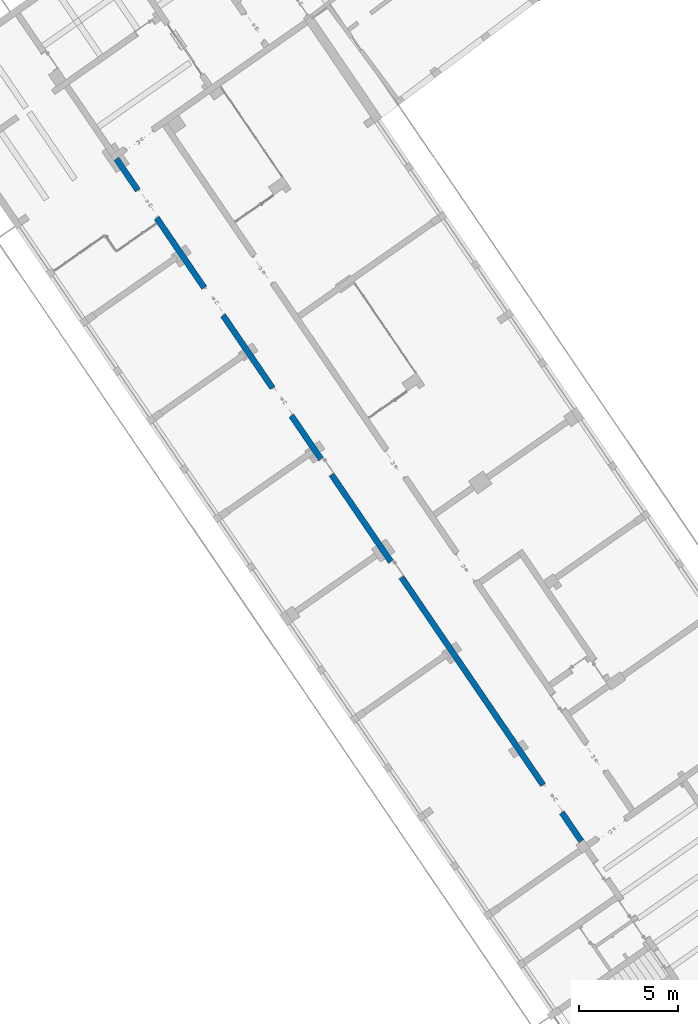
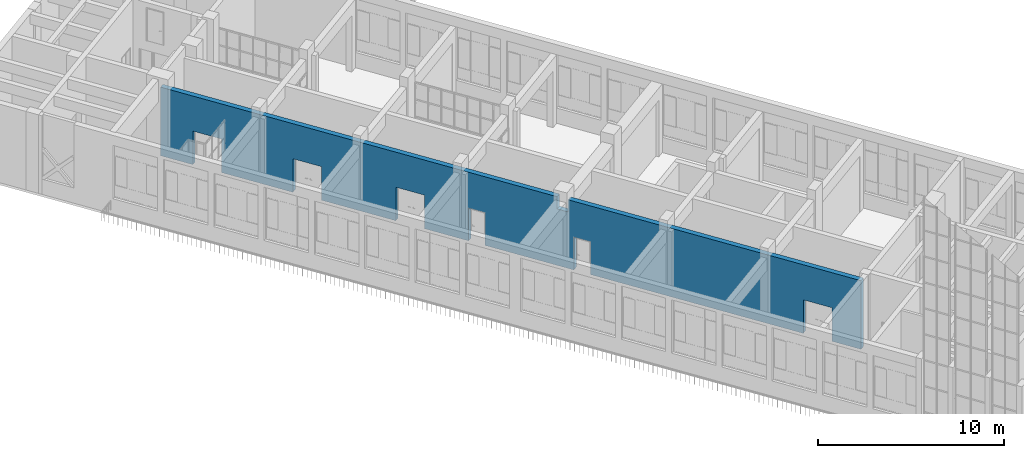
# One storey, part 124 of 157: 1 wall, 6 openings.
"""IFC2X3 building model written with IfcOpenShell, lengths in millimetres."""

from ifc_helpers import new_model, entity, si_unit, converted_unit, derived_unit, direction, frame, frame_2d, origin, place, context, subcontext, project, spatial, rectangle, extrude, faceted_brep, material, layer, layer_set, type_object, element, save


model = new_model("IFC2X3")

# Units and contexts
model_context = context("Model", 3, precision=0.01, world=origin(), true_north=direction((6.123031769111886e-17, 1.0)))
body_context = subcontext(model_context, "Body", "Model", "MODEL_VIEW")
ifc_project = project(units=[si_unit("LENGTHUNIT", "METRE", prefix="MILLI"), si_unit("AREAUNIT", "SQUARE_METRE"), si_unit("VOLUMEUNIT", "CUBIC_METRE"), converted_unit("PLANEANGLEUNIT", "DEGREE", entity("IfcRatioMeasure", 0.017453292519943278), si_unit("PLANEANGLEUNIT", "RADIAN"), dimensions=[0, 0, 0, 0, 0, 0, 0]), si_unit("MASSUNIT", "GRAM", prefix="KILO"), derived_unit("MASSDENSITYUNIT", [(si_unit("MASSUNIT", "GRAM", prefix="KILO"), 1), (si_unit("LENGTHUNIT", "METRE"), -3)]), derived_unit("MOMENTOFINERTIAUNIT", [(si_unit("LENGTHUNIT", "METRE"), 4)]), si_unit("TIMEUNIT", "SECOND"), si_unit("FREQUENCYUNIT", "HERTZ"), si_unit("THERMODYNAMICTEMPERATUREUNIT", "DEGREE_CELSIUS"), derived_unit("THERMALTRANSMITTANCEUNIT", [(si_unit("MASSUNIT", "GRAM", prefix="KILO"), 1), (si_unit("THERMODYNAMICTEMPERATUREUNIT", "KELVIN"), -1), (si_unit("TIMEUNIT", "SECOND"), -3)]), derived_unit("THERMALCONDUCTANCEUNIT", [(si_unit("MASSUNIT", "GRAM", prefix="KILO"), 1), (si_unit("LENGTHUNIT", "METRE"), 1), (si_unit("THERMODYNAMICTEMPERATUREUNIT", "KELVIN"), -1), (si_unit("TIMEUNIT", "SECOND"), -3)]), derived_unit("VOLUMETRICFLOWRATEUNIT", [(si_unit("LENGTHUNIT", "METRE"), 3), (si_unit("TIMEUNIT", "SECOND"), -1)]), derived_unit("MASSFLOWRATEUNIT", [(si_unit("MASSUNIT", "GRAM", prefix="KILO"), 1), (si_unit("TIMEUNIT", "SECOND"), -1)]), derived_unit("ROTATIONALFREQUENCYUNIT", [(si_unit("TIMEUNIT", "SECOND"), -1)]), si_unit("ELECTRICCURRENTUNIT", "AMPERE"), si_unit("ELECTRICVOLTAGEUNIT", "VOLT"), si_unit("POWERUNIT", "WATT"), converted_unit("FORCEUNIT", "KIP", entity("IfcRatioMeasure", 2.088543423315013e-05), si_unit("FORCEUNIT", "NEWTON"), dimensions=[1, 1, -2, 0, 0, 0, 0]), si_unit("ILLUMINANCEUNIT", "LUX"), si_unit("LUMINOUSFLUXUNIT", "LUMEN"), si_unit("LUMINOUSINTENSITYUNIT", "CANDELA"), derived_unit("USERDEFINED", [(si_unit("MASSUNIT", "GRAM", prefix="KILO"), -1), (si_unit("LENGTHUNIT", "METRE"), -2), (si_unit("TIMEUNIT", "SECOND"), 3), (si_unit("LUMINOUSFLUXUNIT", "LUMEN"), 1)]), derived_unit("USERDEFINED", [(si_unit("MASSUNIT", "GRAM", prefix="KILO"), 1), (si_unit("LENGTHUNIT", "METRE"), 3), (si_unit("TIMEUNIT", "SECOND"), -3), (si_unit("ELECTRICCURRENTUNIT", "AMPERE"), -2)]), derived_unit("USERDEFINED", [(si_unit("LENGTHUNIT", "METRE"), 2), (si_unit("TIMEUNIT", "SECOND"), -2)]), derived_unit("SOUNDPOWERUNIT", [(si_unit("MASSUNIT", "GRAM", prefix="KILO"), 1), (si_unit("LENGTHUNIT", "METRE"), 2), (si_unit("TIMEUNIT", "SECOND"), -3)]), derived_unit("SOUNDPRESSUREUNIT", [(si_unit("MASSUNIT", "GRAM", prefix="KILO"), 1), (si_unit("LENGTHUNIT", "METRE"), -1), (si_unit("TIMEUNIT", "SECOND"), -2)]), derived_unit("LINEARVELOCITYUNIT", [(si_unit("LENGTHUNIT", "METRE"), 1), (si_unit("TIMEUNIT", "SECOND"), -1)]), si_unit("PRESSUREUNIT", "PASCAL"), derived_unit("USERDEFINED", [(si_unit("LENGTHUNIT", "METRE"), -2), (si_unit("MASSUNIT", "GRAM", prefix="KILO"), 1), (si_unit("TIMEUNIT", "SECOND"), -2)]), derived_unit("LINEARFORCEUNIT", [(si_unit("MASSUNIT", "GRAM", prefix="KILO"), 1), (si_unit("LENGTHUNIT", "METRE"), 1), (si_unit("TIMEUNIT", "SECOND"), -2), (si_unit("LENGTHUNIT", "METRE"), -1)]), derived_unit("PLANARFORCEUNIT", [(si_unit("MASSUNIT", "GRAM", prefix="KILO"), 1), (si_unit("LENGTHUNIT", "METRE"), 1), (si_unit("TIMEUNIT", "SECOND"), -2), (si_unit("LENGTHUNIT", "METRE"), -2)]), derived_unit("SPECIFICHEATCAPACITYUNIT", [(si_unit("LENGTHUNIT", "METRE"), 2), (si_unit("TIMEUNIT", "SECOND"), -2), (si_unit("THERMODYNAMICTEMPERATUREUNIT", "KELVIN"), -1)]), derived_unit("VAPORPERMEABILITYUNIT", [(si_unit("TIMEUNIT", "SECOND"), 1), (si_unit("LENGTHUNIT", "METRE"), -1)]), derived_unit("DYNAMICVISCOSITYUNIT", [(si_unit("MASSUNIT", "GRAM", prefix="KILO"), 1), (si_unit("LENGTHUNIT", "METRE"), -1), (si_unit("TIMEUNIT", "SECOND"), -1)]), derived_unit("THERMALEXPANSIONCOEFFICIENTUNIT", [(si_unit("THERMODYNAMICTEMPERATUREUNIT", "KELVIN"), -1)])], contexts=[model_context])

# Site, building, storey
site_placement = place(None, frame((0.0, 0.0, 0.0), z_axis=(0.0, 0.0, 1.0), x_axis=(0.8191520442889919, 0.5735764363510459, 0.0)))
site = spatial("IfcSite", under=ifc_project, at=site_placement, Name="Default", CompositionType="ELEMENT")
building_placement = place(site_placement, origin())
building = spatial("IfcBuilding", under=site, at=building_placement, CompositionType="ELEMENT")
storey_placement = place(building_placement, origin())
storey = spatial("IfcBuildingStorey", under=building, at=storey_placement, Name="1.EG +0.00", CompositionType="ELEMENT", Elevation=-4.331468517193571e-12)

# Wall, openings
ifc_material = material(Name="Analytical Wall Surface_CJC")
ifc_layer = layer(ifc_material, 300.0)
ifc_layer_set = layer_set([ifc_layer], Name="Basic Wall:Wand_Innen_30")
wall_type = type_object("IfcWallType", Name="Basic Wall:Wand_Innen_30", PredefinedType="STANDARD", material=ifc_layer_set)
wall_placement = place(storey_placement, frame((-216841.67809097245, 122049.44947620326, 0.0), z_axis=(0.0, 0.0, 1.0), x_axis=(0.012729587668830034, 0.9999189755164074, 0.0)))
wall = element("IfcWall", 1, at=wall_placement, inside=storey, type_object=wall_type, Name="Basic Wall:Wand_Innen_30", ObjectType="Basic Wall:Wand_Innen_30", context=body_context, shape_type="Brep", body=[
    faceted_brep([(41777.203852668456, -150.0, 0.0), (41777.203852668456, -150.0, 4500.0), (41195.12006841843, -150.0, 4500.0), (36201.75210456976, -150.0, 4500.0), (36126.746027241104, -150.0, 4500.0), (35776.71766637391, -150.0, 4500.0), (35701.711589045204, -150.0, 4500.0), (30201.265918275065, -150.0, 4500.0), (30126.25984094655, -150.0, 4500.0), (29776.231480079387, -150.0, 4500.0), (29701.225402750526, -150.0, 4500.0), (24200.779731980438, -150.0, 4500.0), (24125.773654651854, -150.0, 4500.0), (23775.745293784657, -150.0, 4500.0), (23700.7392164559, -150.0, 4500.0), (18200.29354568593, -150.0, 4500.0), (18125.28746835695, -150.0, 4500.0), (18125.287468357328, -150.0, 3700.0), (17475.23479817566, -150.0, 3700.0), (17475.234798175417, -150.0, 4500.0), (17400.228720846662, -150.0, 4500.0), (11899.783050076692, -150.0, 4500.0), (11824.776972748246, -150.0, 4500.0), (11474.74861188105, -150.0, 4500.0), (11399.742534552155, -150.0, 4500.0), (5899.783050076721, -150.0, 4500.0), (5824.290786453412, -150.0, 4500.0), (5474.262425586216, -150.0, 4500.0), (5399.742534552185, -150.0, 4500.0), (3.8191857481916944, -150.0, 4500.0), (3.8191857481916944, -150.0, 0.0), (1747.1924363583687, -150.0, 0.0), (1747.1924363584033, -150.0, 2200.0), (3447.1924363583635, -150.0, 2200.0), (3447.1924363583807, -150.0, 0.0), (5399.742534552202, -150.0, 0.0), (5899.783050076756, -150.0, 0.0), (11399.742534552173, -150.0, 0.0), (11899.783050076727, -150.0, 0.0), (16147.192436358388, -150.0, 0.0), (16147.192436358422, -150.0, 2150.0), (17127.192436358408, -150.0, 2150.0), (17127.192436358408, -150.0, 0.0), (17400.228720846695, -150.0, 0.0), (18200.293545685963, -150.0, 0.0), (22427.19243635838, -150.0, 0.0), (22427.192436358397, -150.0, 2150.0), (23407.1924363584, -150.0, 2150.0), (23407.1924363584, -150.0, 0.0), (23700.739216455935, -150.0, 0.0), (24200.77973198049, -150.0, 0.0), (26046.24243635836, -150.0, 0.0), (26046.24243635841, -150.0, 2200.0), (27746.24243635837, -150.0, 2200.0), (27746.24243635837, -150.0, 0.0), (29701.225402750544, -150.0, 0.0), (30201.265918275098, -150.0, 0.0), (32185.292436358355, -150.0, 0.0), (32185.292436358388, -150.0, 2200.0), (33885.29243635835, -150.0, 2200.0), (33885.292436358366, -150.0, 0.0), (35701.71158904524, -150.0, 0.0), (36201.75210456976, -150.0, 0.0), (38154.34243635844, -150.0, 0.0), (38154.34243635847, -150.0, 2200.0), (39854.34243635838, -150.0, 2200.0), (39854.34243635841, -150.0, 0.0), (41195.1200684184, -150.0, 0.0), (41773.38466692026, 150.0, 4500.0), (41773.38466692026, 150.0, 3700.0), (41773.38466692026, 150.0, 0.0), (41195.12006841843, 150.0, 0.0), (39854.3424363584, 150.0, 0.0), (39854.342436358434, 150.0, 2200.0), (38154.342436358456, 150.0, 2200.0), (38154.342436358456, 150.0, 0.0), (36197.93291882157, 150.0, 0.0), (35697.892403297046, 150.0, 0.0), (33885.292436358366, 150.0, 0.0), (33885.29243635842, 150.0, 2200.0), (32185.29243635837, 150.0, 2200.0), (32185.292436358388, 150.0, 0.0), (30197.44673252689, 150.0, 0.0), (29697.406217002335, 150.0, 0.0), (27746.24243635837, 150.0, 0.0), (27746.242436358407, 150.0, 2200.0), (26046.242436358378, 150.0, 2200.0), (26046.242436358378, 150.0, 0.0), (24196.96054623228, 150.0, 0.0), (24095.00769794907, 150.0, 0.0), (23794.983388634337, 150.0, 0.0), (23696.920030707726, 150.0, 0.0), (23407.192436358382, 150.0, 0.0), (23407.1924363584, 150.0, 2150.0), (22427.19243635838, 150.0, 2150.0), (22427.192436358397, 150.0, 0.0), (18196.474359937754, 150.0, 0.0), (17396.409535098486, 150.0, 0.0), (17127.19243635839, 150.0, 0.0), (17127.192436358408, 150.0, 2150.0), (16147.192436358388, 150.0, 2150.0), (16147.192436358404, 150.0, 0.0), (11895.963864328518, 150.0, 0.0), (11395.923348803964, 150.0, 0.0), (5895.963864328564, 150.0, 0.0), (5395.923348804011, 150.0, 0.0), (3447.192436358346, 150.0, 0.0), (3447.1924363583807, 150.0, 2200.0), (1747.1924363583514, 150.0, 2200.0), (1747.1924363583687, 150.0, 0.0), (0.0, 150.0, 0.0), (0.0, 150.0, 4500.0), (5395.923348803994, 150.0, 4500.0), (5470.436688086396, 150.0, 4500.0), (5820.4650489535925, 150.0, 4500.0), (5895.96386432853, 150.0, 4500.0), (11395.923348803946, 150.0, 4500.0), (11468.984680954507, 150.0, 4500.0), (11819.013041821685, 150.0, 4500.0), (11895.963864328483, 150.0, 4500.0), (17396.409535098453, 150.0, 4500.0), (17471.415612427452, 150.0, 4500.0), (17471.415612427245, 150.0, 3700.0), (18121.468282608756, 150.0, 3700.0), (18121.468282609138, 150.0, 4500.0), (18196.47435993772, 150.0, 4500.0), (23696.92003070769, 150.0, 4500.0), (24196.96054623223, 150.0, 4500.0), (29697.406217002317, 150.0, 4500.0), (30197.446732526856, 150.0, 4500.0), (35697.89240329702, 150.0, 4500.0), (36197.93291882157, 150.0, 4500.0), (41195.12006841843, 150.0, 4500.0), (41775.31856812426, -1.909438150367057, 4500.0)], [[[0, 1, 2, 3, 4, 5, 6, 7, 8, 9, 10, 11, 12, 13, 14, 15, 16, 17, 18, 19, 20, 21, 22, 23, 24, 25, 26, 27, 28, 29, 30, 31, 32, 33, 34, 35, 36, 37, 38, 39, 40, 41, 42, 43, 44, 45, 46, 47, 48, 49, 50, 51, 52, 53, 54, 55, 56, 57, 58, 59, 60, 61, 62, 63, 64, 65, 66, 67]], [[68, 69, 70, 71, 72, 73, 74, 75, 76, 77, 78, 79, 80, 81, 82, 83, 84, 85, 86, 87, 88, 89, 90, 91, 92, 93, 94, 95, 96, 97, 98, 99, 100, 101, 102, 103, 104, 105, 106, 107, 108, 109, 110, 111, 112, 113, 114, 115, 116, 117, 118, 119, 120, 121, 122, 123, 124, 125, 126, 127, 128, 129, 130, 131, 132]], [[30, 110, 109, 31]], [[1, 133, 68, 132, 131, 130, 129, 128, 127, 126, 125, 124, 16, 15, 14, 13, 12, 11, 10, 9, 8, 7, 6, 5, 4, 3, 2]], [[18, 122, 121, 19]], [[123, 17, 16, 124]], [[122, 18, 17, 123]], [[0, 70, 69, 68, 133, 1]], [[30, 29, 111, 110]], [[100, 40, 39, 101]], [[40, 100, 99, 41]], [[41, 99, 98, 42]], [[94, 46, 45, 95]], [[46, 94, 93, 47]], [[47, 93, 92, 48]], [[108, 32, 31, 109]], [[32, 108, 107, 33]], [[33, 107, 106, 34]], [[86, 52, 51, 87]], [[52, 86, 85, 53]], [[53, 85, 84, 54]], [[80, 58, 57, 81]], [[58, 80, 79, 59]], [[59, 79, 78, 60]], [[74, 64, 63, 75]], [[64, 74, 73, 65]], [[65, 73, 72, 66]], [[111, 29, 28, 27, 26, 25, 24, 23, 22, 21, 20, 19, 121, 120, 119, 118, 117, 116, 115, 114, 113, 112]], [[42, 98, 97, 96, 95, 45, 44, 43]], [[48, 92, 91, 90, 89, 88, 87, 51, 50, 49]], [[54, 84, 83, 82, 81, 57, 56, 55]], [[60, 78, 77, 76, 75, 63, 62, 61]], [[70, 0, 67, 66, 72, 71]], [[101, 39, 38, 37, 36, 35, 34, 106, 105, 104, 103, 102]]]),
])
opening_1_placement = place(wall_placement, frame((17127.19243635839, 150.0, 0.0)))
element("IfcOpeningElement", 2, at=opening_1_placement, cuts=wall, Name="Doors_IntSgl:90x210:1", ObjectType="Opening", context=body_context, shape_type="SweptSolid", body=[
    extrude(rectangle(XDim=2150.000000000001, YDim=979.9999999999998, at=frame_2d((1075.0000000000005, 489.9999999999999), x_axis=(1.0, 0.0))), frame((0.0, 0.0, 0.0), z_axis=(0.0, -1.0, 0.0), x_axis=(0.0, 0.0, 1.0)), (0.0, 0.0, 1.0), 299.9999999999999),
])
opening_2_placement = place(wall_placement, frame((23407.192436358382, 150.0, 0.0)))
element("IfcOpeningElement", 3, at=opening_2_placement, cuts=wall, Name="Doors_IntSgl:90x210:1", ObjectType="Opening", context=body_context, shape_type="SweptSolid", body=[
    extrude(rectangle(XDim=2150.000000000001, YDim=979.9999999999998, at=frame_2d((1075.0000000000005, 489.9999999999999), x_axis=(1.0, 0.0))), frame((0.0, 0.0, 0.0), z_axis=(0.0, -1.0, 0.0), x_axis=(0.0, 0.0, 1.0)), (0.0, 0.0, 1.0), 299.9999999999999),
])
opening_3_placement = place(wall_placement, frame((3447.1924363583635, 150.0, 0.0)))
element("IfcOpeningElement", 4, at=opening_3_placement, cuts=wall, Name="M_Door-Passage-Double-Flush:160x210:1", ObjectType="Opening", context=body_context, shape_type="SweptSolid", body=[
    extrude(rectangle(XDim=2200.0, YDim=1699.9999999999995, at=frame_2d((1100.0, 849.9999999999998), x_axis=(1.0, 0.0))), frame((0.0, 0.0, 0.0), z_axis=(0.0, -1.0, 0.0), x_axis=(0.0, 0.0, 1.0)), (0.0, 0.0, 1.0), 299.9999999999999),
])
opening_4_placement = place(wall_placement, frame((27746.24243635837, 150.0, 0.0)))
element("IfcOpeningElement", 5, at=opening_4_placement, cuts=wall, Name="M_Door-Passage-Double-Flush:160x210:1", ObjectType="Opening", context=body_context, shape_type="SweptSolid", body=[
    extrude(rectangle(XDim=2200.0, YDim=1699.9999999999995, at=frame_2d((1100.0, 849.9999999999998), x_axis=(1.0, 0.0))), frame((0.0, 0.0, 0.0), z_axis=(0.0, -1.0, 0.0), x_axis=(0.0, 0.0, 1.0)), (0.0, 0.0, 1.0), 299.9999999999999),
])
opening_5_placement = place(wall_placement, frame((33885.29243635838, 150.0, 0.0)))
element("IfcOpeningElement", 6, at=opening_5_placement, cuts=wall, Name="M_Door-Passage-Double-Flush:160x210:1", ObjectType="Opening", context=body_context, shape_type="SweptSolid", body=[
    extrude(rectangle(XDim=2200.0, YDim=1699.9999999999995, at=frame_2d((1100.0, 849.9999999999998), x_axis=(1.0, 0.0))), frame((0.0, 0.0, 0.0), z_axis=(0.0, -1.0, 0.0), x_axis=(0.0, 0.0, 1.0)), (0.0, 0.0, 1.0), 299.9999999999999),
])
opening_6_placement = place(wall_placement, frame((39854.342436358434, 150.0, 0.0)))
element("IfcOpeningElement", 7, at=opening_6_placement, cuts=wall, Name="M_Door-Passage-Double-Flush:160x210:1", ObjectType="Opening", context=body_context, shape_type="SweptSolid", body=[
    extrude(rectangle(XDim=2200.0, YDim=1699.9999999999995, at=frame_2d((1100.0, 849.9999999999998), x_axis=(1.0, 0.0))), frame((0.0, 0.0, 0.0), z_axis=(0.0, -1.0, 0.0), x_axis=(0.0, 0.0, 1.0)), (0.0, 0.0, 1.0), 299.9999999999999),
])

save(model, "model.ifc")
